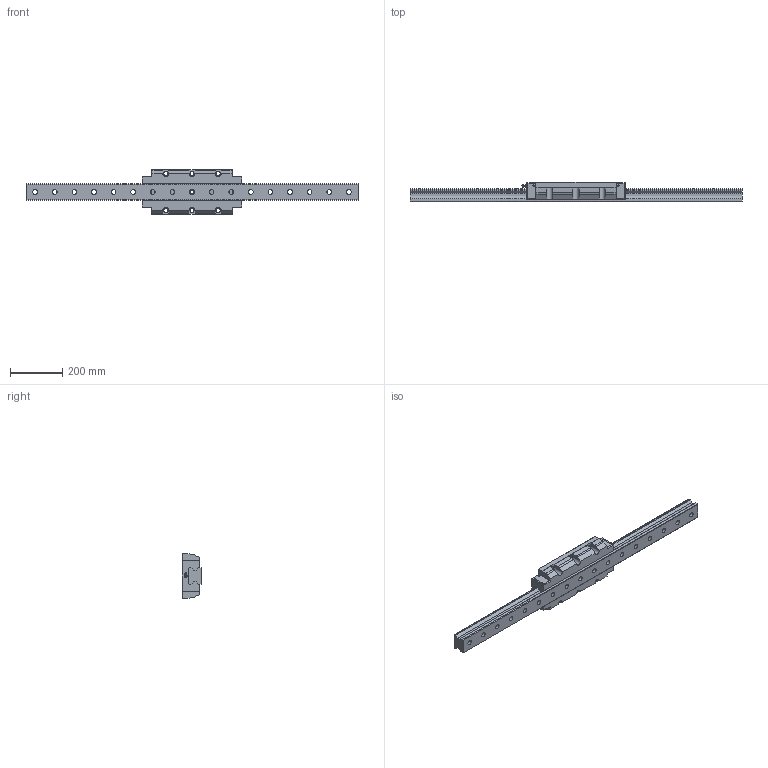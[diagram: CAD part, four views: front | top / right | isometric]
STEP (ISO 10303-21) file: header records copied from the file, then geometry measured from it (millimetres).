
FILE_DESCRIPTION(/* description */ ('STEP AP203'),/* implementation_level */ '2;1');
FILE_NAME(/* name */ 'SRN65SLC1SS-1270L_G35_0_B-PT18_445_0_0_0',/* time_stamp */ '2024-05-23T10:45:49+02:00',/* author */ ('License CC BY-ND 4.0'),/* organization */ ('CADENAS'),/* preprocessor_version */ 'ST-DEVELOPER v19.3',/* originating_system */ 'PARTsolutions',/* authorisation */ ' ');
FILE_SCHEMA (('CONFIG_CONTROL_DESIGN'));
Length unit declared in the file: millimetre
Products named in the file (4): SRN65SLC1SS-1270L_G35_0_B-PT18_445_0_0_0; SRN65SLC127035 Track; SRN65SLCSSB-PT1/8 Slide35-65; B-PT1/8-SRN_grease_nipple_joint
Assembly tree (3 placements, depth 2):
  SRN65SLC1SS-1270L_G35_0_B-PT18_445_0_0_0
    SRN65SLC127035 Track
    SRN65SLCSSB-PT1/8 Slide35-65
    B-PT1/8-SRN_grease_nipple_joint
Bounding box: 1270 x 75 x 170 mm (x, y, z)
Volume: 5900935.9 mm3; surface area: 590925.8 mm2
Topology: 3 solids, 3 shells, 275 faces, 712 edges, 466 vertices
Faces by surface type: plane 174, cylinder 66, cone 30, torus 3, sphere 2
Full cylindrical faces by diameter (mm): 5.2 x4, 9.6 x1, 14.5 x9, 18 x17, 26 x17
Entity records: 8128 total; most frequent: CARTESIAN_POINT 1480, DIRECTION 1334, ORIENTED_EDGE 1234, EDGE_CURVE 617, AXIS2_PLACEMENT_3D 465, VERTEX_POINT 456, FACE_BOUND 435, EDGE_LOOP 433
